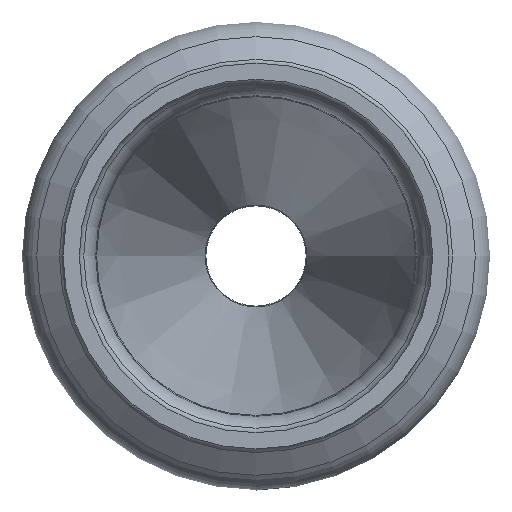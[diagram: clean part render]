
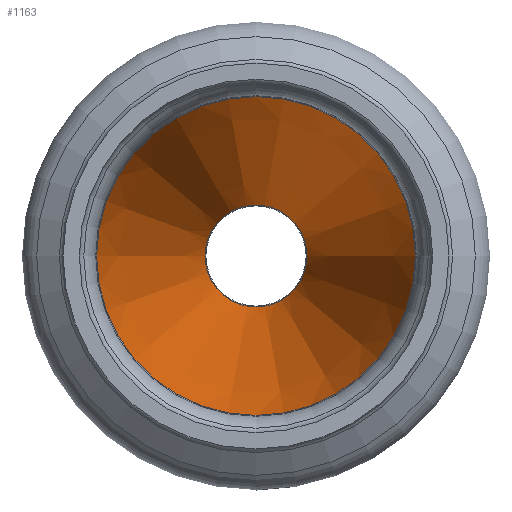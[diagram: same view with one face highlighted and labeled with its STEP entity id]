
A CAD part, left-side view. The second image highlights one B-rep face of the part: STEP entity #1163.
In plain terms, the highlighted conical face has half-angle 14.869 degrees and reference radius 17.953 mm.
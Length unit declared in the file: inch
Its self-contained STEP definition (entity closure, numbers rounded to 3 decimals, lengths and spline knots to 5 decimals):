
#76=LINE('',#2154,#98);
#98=VECTOR('',#1741,0.70683);
#112=CONICAL_SURFACE('',#1349,0.70683,0.26);
#149=FACE_OUTER_BOUND('',#198,.T.);
#198=EDGE_LOOP('',(#951,#952,#953,#954,#955,#956,#957,#958));
#327=CIRCLE('',#1345,0.34246);
#328=CIRCLE('',#1346,0.34246);
#329=CIRCLE('',#1347,0.34246);
#331=CIRCLE('',#1350,1.0712);
#332=CIRCLE('',#1351,1.0712);
#333=CIRCLE('',#1352,1.0712);
#470=VERTEX_POINT('',#2145);
#471=VERTEX_POINT('',#2146);
#472=VERTEX_POINT('',#2148);
#473=VERTEX_POINT('',#2153);
#474=VERTEX_POINT('',#2155);
#475=VERTEX_POINT('',#2157);
#638=EDGE_CURVE('',#470,#471,#327,.T.);
#639=EDGE_CURVE('',#472,#470,#328,.T.);
#640=EDGE_CURVE('',#471,#472,#329,.T.);
#642=EDGE_CURVE('',#472,#473,#76,.T.);
#643=EDGE_CURVE('',#474,#473,#331,.T.);
#644=EDGE_CURVE('',#475,#474,#332,.T.);
#645=EDGE_CURVE('',#473,#475,#333,.T.);
#951=ORIENTED_EDGE('',*,*,#638,.T.);
#952=ORIENTED_EDGE('',*,*,#640,.T.);
#953=ORIENTED_EDGE('',*,*,#642,.T.);
#954=ORIENTED_EDGE('',*,*,#643,.F.);
#955=ORIENTED_EDGE('',*,*,#644,.F.);
#956=ORIENTED_EDGE('',*,*,#645,.F.);
#957=ORIENTED_EDGE('',*,*,#642,.F.);
#958=ORIENTED_EDGE('',*,*,#639,.T.);
#1163=ADVANCED_FACE('',(#149),#112,.F.);
#1345=AXIS2_PLACEMENT_3D('',#2147,#1731,#1732);
#1346=AXIS2_PLACEMENT_3D('',#2149,#1733,#1734);
#1347=AXIS2_PLACEMENT_3D('',#2150,#1735,#1736);
#1349=AXIS2_PLACEMENT_3D('',#2152,#1739,#1740);
#1350=AXIS2_PLACEMENT_3D('',#2156,#1742,#1743);
#1351=AXIS2_PLACEMENT_3D('',#2158,#1744,#1745);
#1352=AXIS2_PLACEMENT_3D('',#2159,#1746,#1747);
#1731=DIRECTION('center_axis',(1.,0.,0.));
#1732=DIRECTION('ref_axis',(0.,1.,0.));
#1733=DIRECTION('center_axis',(1.,0.,0.));
#1734=DIRECTION('ref_axis',(0.,1.,0.));
#1735=DIRECTION('center_axis',(1.,0.,0.));
#1736=DIRECTION('ref_axis',(0.,1.,0.));
#1739=DIRECTION('center_axis',(-1.,0.,0.));
#1740=DIRECTION('ref_axis',(0.,1.,0.));
#1741=DIRECTION('',(-0.967,-0.257,0.));
#1742=DIRECTION('center_axis',(1.,0.,0.));
#1743=DIRECTION('ref_axis',(0.,1.,0.));
#1744=DIRECTION('center_axis',(1.,0.,0.));
#1745=DIRECTION('ref_axis',(0.,1.,0.));
#1746=DIRECTION('center_axis',(1.,0.,0.));
#1747=DIRECTION('ref_axis',(0.,1.,0.));
#2145=CARTESIAN_POINT('',(1.40446,0.34246,0.));
#2146=CARTESIAN_POINT('',(1.40446,0.,0.34246));
#2147=CARTESIAN_POINT('Origin',(1.40446,0.,
0.));
#2148=CARTESIAN_POINT('',(1.40446,-0.34246,0.));
#2149=CARTESIAN_POINT('Origin',(1.40446,0.,
0.));
#2150=CARTESIAN_POINT('Origin',(1.40446,0.,
0.));
#2152=CARTESIAN_POINT('Origin',(0.03202,0.,
0.));
#2153=CARTESIAN_POINT('',(-1.34041,-1.0712,0.));
#2154=CARTESIAN_POINT('',(0.03202,-0.70683,0.));
#2155=CARTESIAN_POINT('',(-1.34041,0.,1.0712));
#2156=CARTESIAN_POINT('Origin',(-1.34041,0.,
0.));
#2157=CARTESIAN_POINT('',(-1.34041,1.0712,0.));
#2158=CARTESIAN_POINT('Origin',(-1.34041,0.,
0.));
#2159=CARTESIAN_POINT('Origin',(-1.34041,0.,
0.));
